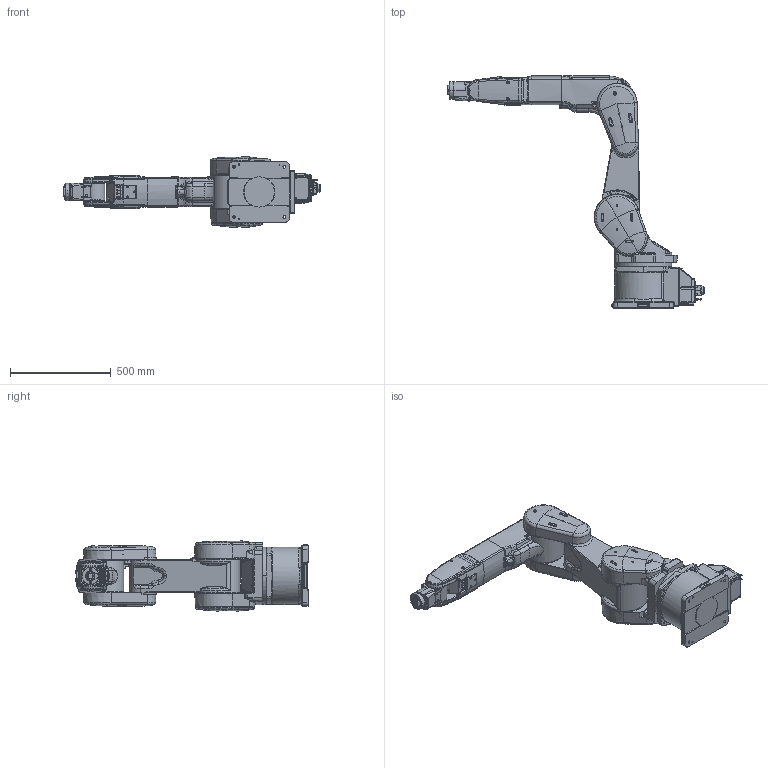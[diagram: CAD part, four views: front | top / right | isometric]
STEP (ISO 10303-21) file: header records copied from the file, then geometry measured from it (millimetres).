
FILE_DESCRIPTION((''),'2;1');
FILE_NAME('RV-13FRL-SH_ASM','2017-05-25T',('PC32302'),(''),'PRO/ENGINEER BY PARAMETRIC TECHNOLOGY CORPORATION, 2014310','PRO/ENGINEER BY PARAMETRIC TECHNOLOGY CORPORATION, 2014310','');
FILE_SCHEMA(('CONFIG_CONTROL_DESIGN'));
Length unit declared in the file: millimetre
Products named in the file (9): RV-13FRL-SH_SKELTON; RV-13FR_BASE_01; RV-13F_SHOULDER_02; RV-13FL_NO1ARM_03; RV-13F_ELBOW_04; RV-13FL_NO2ARM_05; RV-13F-SH_WRIST_06; RV-13F-SH_HAND_FLANGE_07; RV-13FRL-SH_ASM
Assembly tree (8 placements, depth 2):
  RV-13FRL-SH_ASM
    RV-13FRL-SH_SKELTON
    RV-13FR_BASE_01
    RV-13F_SHOULDER_02
    RV-13FL_NO1ARM_03
    RV-13F_ELBOW_04
    RV-13FL_NO2ARM_05
    RV-13F-SH_WRIST_06
    RV-13F-SH_HAND_FLANGE_07
Bounding box: 1272.5 x 1152.11 x 348.47 mm (x, y, z)
Volume: 74684400.1 mm3; surface area: 2515354.5 mm2
Topology: 7 solids, 9 shells, 3551 faces, 8874 edges, 5577 vertices
Faces by surface type: cylinder 1297, plane 1059, bspline 617, torus 282, cone 247, sphere 45, extrusion 2, revolution 2
Entity records: 236428 total; most frequent: CARTESIAN_POINT 156266, ORIENTED_EDGE 17710, DIRECTION 15360, EDGE_CURVE 8855, AXIS2_PLACEMENT_3D 6044, VERTEX_POINT 5577, EDGE_LOOP 3850, FACE_OUTER_BOUND 3551
